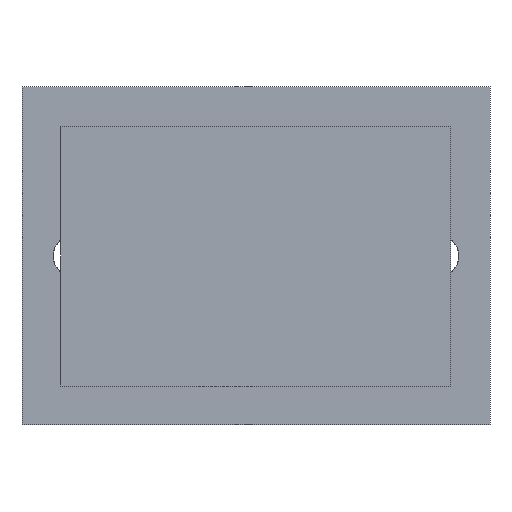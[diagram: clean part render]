
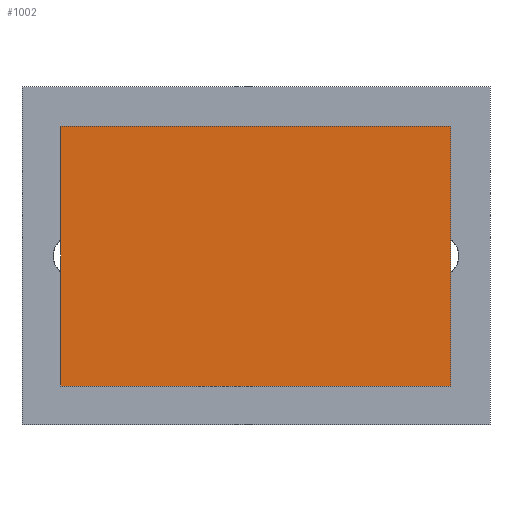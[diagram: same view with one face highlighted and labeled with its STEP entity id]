
A CAD part, front view. The second image highlights one B-rep face of the part: STEP entity #1002.
In plain terms, the highlighted planar face has unit normal (0, -1, 0).
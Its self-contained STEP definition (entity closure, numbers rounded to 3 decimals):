
#233 = PLANE('',#234);
#234 = AXIS2_PLACEMENT_3D('',#235,#236,#237);
#235 = CARTESIAN_POINT('',(-57.,-64.,40.));
#236 = DIRECTION('',(0.,0.,1.));
#237 = DIRECTION('',(1.,0.,0.));
#259 = PLANE('',#260);
#260 = AXIS2_PLACEMENT_3D('',#261,#262,#263);
#261 = CARTESIAN_POINT('',(-57.,-64.,20.));
#262 = DIRECTION('',(1.,0.,0.));
#263 = DIRECTION('',(0.,0.,1.));
#335 = PLANE('',#336);
#336 = AXIS2_PLACEMENT_3D('',#337,#338,#339);
#337 = CARTESIAN_POINT('',(-57.,-64.,20.));
#338 = DIRECTION('',(0.,0.,1.));
#339 = DIRECTION('',(1.,0.,0.));
#361 = PLANE('',#362);
#362 = AXIS2_PLACEMENT_3D('',#363,#364,#365);
#363 = CARTESIAN_POINT('',(-27.,-64.,20.));
#364 = DIRECTION('',(1.,0.,0.));
#365 = DIRECTION('',(0.,0.,1.));
#608 = VERTEX_POINT('',#609);
#609 = CARTESIAN_POINT('',(-57.,-64.,40.));
#630 = EDGE_CURVE('',#608,#631,#633,.T.);
#631 = VERTEX_POINT('',#632);
#632 = CARTESIAN_POINT('',(-27.,-64.,40.));
#633 = SURFACE_CURVE('',#634,(#638,#645),.PCURVE_S1.);
#634 = LINE('',#635,#636);
#635 = CARTESIAN_POINT('',(-57.,-64.,40.));
#636 = VECTOR('',#637,1.);
#637 = DIRECTION('',(1.,0.,0.));
#638 = PCURVE('',#233,#639);
#639 = DEFINITIONAL_REPRESENTATION('',(#640),#644);
#640 = LINE('',#641,#642);
#641 = CARTESIAN_POINT('',(0.,0.));
#642 = VECTOR('',#643,1.);
#643 = DIRECTION('',(1.,0.));
#644 = ( GEOMETRIC_REPRESENTATION_CONTEXT(2) 
PARAMETRIC_REPRESENTATION_CONTEXT() REPRESENTATION_CONTEXT('2D SPACE',''
  ) );
#645 = PCURVE('',#646,#651);
#646 = PLANE('',#647);
#647 = AXIS2_PLACEMENT_3D('',#648,#649,#650);
#648 = CARTESIAN_POINT('',(-57.,-64.,20.));
#649 = DIRECTION('',(0.,1.,0.));
#650 = DIRECTION('',(0.,0.,1.));
#651 = DEFINITIONAL_REPRESENTATION('',(#652),#656);
#652 = LINE('',#653,#654);
#653 = CARTESIAN_POINT('',(20.,0.));
#654 = VECTOR('',#655,1.);
#655 = DIRECTION('',(0.,1.));
#656 = ( GEOMETRIC_REPRESENTATION_CONTEXT(2) 
PARAMETRIC_REPRESENTATION_CONTEXT() REPRESENTATION_CONTEXT('2D SPACE',''
  ) );
#684 = EDGE_CURVE('',#685,#631,#687,.T.);
#685 = VERTEX_POINT('',#686);
#686 = CARTESIAN_POINT('',(-27.,-64.,20.));
#687 = SURFACE_CURVE('',#688,(#692,#699),.PCURVE_S1.);
#688 = LINE('',#689,#690);
#689 = CARTESIAN_POINT('',(-27.,-64.,20.));
#690 = VECTOR('',#691,1.);
#691 = DIRECTION('',(0.,0.,1.));
#692 = PCURVE('',#361,#693);
#693 = DEFINITIONAL_REPRESENTATION('',(#694),#698);
#694 = LINE('',#695,#696);
#695 = CARTESIAN_POINT('',(0.,0.));
#696 = VECTOR('',#697,1.);
#697 = DIRECTION('',(1.,0.));
#698 = ( GEOMETRIC_REPRESENTATION_CONTEXT(2) 
PARAMETRIC_REPRESENTATION_CONTEXT() REPRESENTATION_CONTEXT('2D SPACE',''
  ) );
#699 = PCURVE('',#646,#700);
#700 = DEFINITIONAL_REPRESENTATION('',(#701),#705);
#701 = LINE('',#702,#703);
#702 = CARTESIAN_POINT('',(0.,30.));
#703 = VECTOR('',#704,1.);
#704 = DIRECTION('',(1.,0.));
#705 = ( GEOMETRIC_REPRESENTATION_CONTEXT(2) 
PARAMETRIC_REPRESENTATION_CONTEXT() REPRESENTATION_CONTEXT('2D SPACE',''
  ) );
#832 = VERTEX_POINT('',#833);
#833 = CARTESIAN_POINT('',(-57.,-64.,20.));
#854 = EDGE_CURVE('',#832,#685,#855,.T.);
#855 = SURFACE_CURVE('',#856,(#860,#867),.PCURVE_S1.);
#856 = LINE('',#857,#858);
#857 = CARTESIAN_POINT('',(-57.,-64.,20.));
#858 = VECTOR('',#859,1.);
#859 = DIRECTION('',(1.,0.,0.));
#860 = PCURVE('',#335,#861);
#861 = DEFINITIONAL_REPRESENTATION('',(#862),#866);
#862 = LINE('',#863,#864);
#863 = CARTESIAN_POINT('',(0.,0.));
#864 = VECTOR('',#865,1.);
#865 = DIRECTION('',(1.,0.));
#866 = ( GEOMETRIC_REPRESENTATION_CONTEXT(2) 
PARAMETRIC_REPRESENTATION_CONTEXT() REPRESENTATION_CONTEXT('2D SPACE',''
  ) );
#867 = PCURVE('',#646,#868);
#868 = DEFINITIONAL_REPRESENTATION('',(#869),#873);
#869 = LINE('',#870,#871);
#870 = CARTESIAN_POINT('',(0.,0.));
#871 = VECTOR('',#872,1.);
#872 = DIRECTION('',(0.,1.));
#873 = ( GEOMETRIC_REPRESENTATION_CONTEXT(2) 
PARAMETRIC_REPRESENTATION_CONTEXT() REPRESENTATION_CONTEXT('2D SPACE',''
  ) );
#881 = EDGE_CURVE('',#832,#608,#882,.T.);
#882 = SURFACE_CURVE('',#883,(#887,#894),.PCURVE_S1.);
#883 = LINE('',#884,#885);
#884 = CARTESIAN_POINT('',(-57.,-64.,20.));
#885 = VECTOR('',#886,1.);
#886 = DIRECTION('',(0.,0.,1.));
#887 = PCURVE('',#259,#888);
#888 = DEFINITIONAL_REPRESENTATION('',(#889),#893);
#889 = LINE('',#890,#891);
#890 = CARTESIAN_POINT('',(0.,0.));
#891 = VECTOR('',#892,1.);
#892 = DIRECTION('',(1.,0.));
#893 = ( GEOMETRIC_REPRESENTATION_CONTEXT(2) 
PARAMETRIC_REPRESENTATION_CONTEXT() REPRESENTATION_CONTEXT('2D SPACE',''
  ) );
#894 = PCURVE('',#646,#895);
#895 = DEFINITIONAL_REPRESENTATION('',(#896),#900);
#896 = LINE('',#897,#898);
#897 = CARTESIAN_POINT('',(0.,0.));
#898 = VECTOR('',#899,1.);
#899 = DIRECTION('',(1.,0.));
#900 = ( GEOMETRIC_REPRESENTATION_CONTEXT(2) 
PARAMETRIC_REPRESENTATION_CONTEXT() REPRESENTATION_CONTEXT('2D SPACE',''
  ) );
#1002 = ADVANCED_FACE('',(#1003),#646,.F.);
#1003 = FACE_BOUND('',#1004,.F.);
#1004 = EDGE_LOOP('',(#1005,#1006,#1007,#1008));
#1005 = ORIENTED_EDGE('',*,*,#854,.F.);
#1006 = ORIENTED_EDGE('',*,*,#881,.T.);
#1007 = ORIENTED_EDGE('',*,*,#630,.T.);
#1008 = ORIENTED_EDGE('',*,*,#684,.F.);
